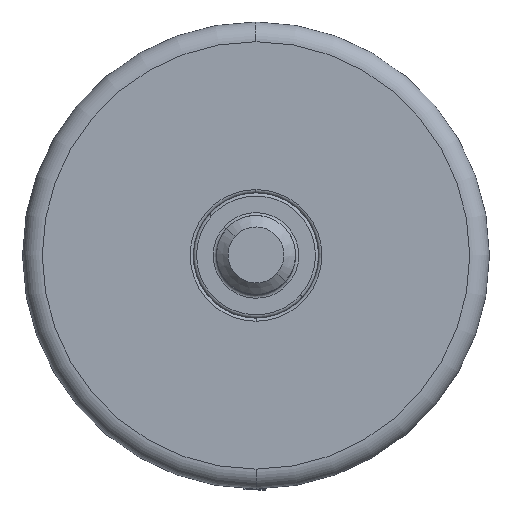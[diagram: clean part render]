
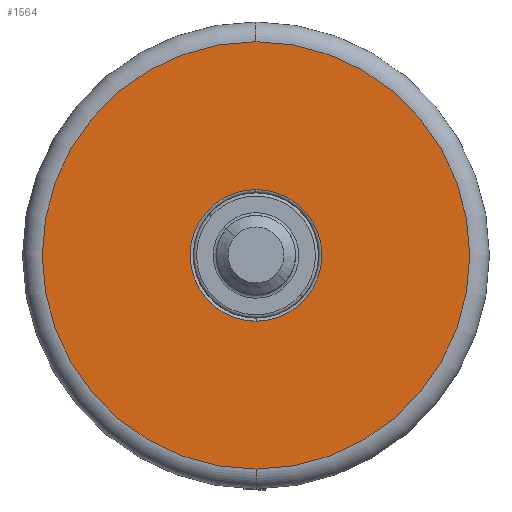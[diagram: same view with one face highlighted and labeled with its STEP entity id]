
A CAD part, top view. The second image highlights one B-rep face of the part: STEP entity #1564.
In plain terms, the highlighted planar face has unit normal (0, 0, 1) as drawn and (0, 0, -1) by its records, which use the part's own axes.
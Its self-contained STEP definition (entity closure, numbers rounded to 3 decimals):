
#294 = DIRECTION ( 'NONE',  ( 0., 0., 1. ) ) ;
#516 = CARTESIAN_POINT ( 'NONE',  ( 0., 0., -40. ) ) ;
#694 = VERTEX_POINT ( 'NONE', #818 ) ;
#818 = CARTESIAN_POINT ( 'NONE',  ( -10., 0., -40. ) ) ;
#887 = CIRCLE ( 'NONE', #2683, 32.465 ) ;
#915 = CARTESIAN_POINT ( 'NONE',  ( 32.465, 0., -40. ) ) ;
#934 = AXIS2_PLACEMENT_3D ( 'NONE', #11995, #8270, #10091 ) ;
#1564 = ADVANCED_FACE ( 'NONE', ( #9259, #2738 ), #3433, .F. ) ;
#2295 = CARTESIAN_POINT ( 'NONE',  ( 0., 0., -40. ) ) ;
#2466 = EDGE_CURVE ( 'NONE', #5445, #4516, #887, .T. ) ;
#2500 = EDGE_CURVE ( 'NONE', #4516, #5445, #11569, .T. ) ;
#2683 = AXIS2_PLACEMENT_3D ( 'NONE', #516, #4352, #9230 ) ;
#2738 = FACE_BOUND ( 'NONE', #7702, .T. ) ;
#2753 = CARTESIAN_POINT ( 'NONE',  ( -32.465, 0., -40. ) ) ;
#3433 = PLANE ( 'NONE',  #5107 ) ;
#3892 = AXIS2_PLACEMENT_3D ( 'NONE', #4089, #8198, #4151 ) ;
#4089 = CARTESIAN_POINT ( 'NONE',  ( 0., 0., -40. ) ) ;
#4151 = DIRECTION ( 'NONE',  ( 1., 0., 0. ) ) ;
#4251 = ORIENTED_EDGE ( 'NONE', *, *, #2466, .F. ) ;
#4352 = DIRECTION ( 'NONE',  ( 0., 0., 1. ) ) ;
#4473 = CIRCLE ( 'NONE', #10734, 10. ) ;
#4516 = VERTEX_POINT ( 'NONE', #915 ) ;
#4525 = ORIENTED_EDGE ( 'NONE', *, *, #6234, .T. ) ;
#4826 = VERTEX_POINT ( 'NONE', #9225 ) ;
#5107 = AXIS2_PLACEMENT_3D ( 'NONE', #12226, #7486, #5588 ) ;
#5445 = VERTEX_POINT ( 'NONE', #2753 ) ;
#5588 = DIRECTION ( 'NONE',  ( 1., 0., 0. ) ) ;
#6153 = DIRECTION ( 'NONE',  ( 1., 0., 0. ) ) ;
#6234 = EDGE_CURVE ( 'NONE', #694, #4826, #10202, .T. ) ;
#7307 = EDGE_CURVE ( 'NONE', #4826, #694, #4473, .T. ) ;
#7486 = DIRECTION ( 'NONE',  ( 0., 0., 1. ) ) ;
#7702 = EDGE_LOOP ( 'NONE', ( #8470, #4525 ) ) ;
#8198 = DIRECTION ( 'NONE',  ( 0., 0., 1. ) ) ;
#8270 = DIRECTION ( 'NONE',  ( 0., 0., 1. ) ) ;
#8470 = ORIENTED_EDGE ( 'NONE', *, *, #7307, .T. ) ;
#8617 = ORIENTED_EDGE ( 'NONE', *, *, #2500, .F. ) ;
#9225 = CARTESIAN_POINT ( 'NONE',  ( 10., 0., -40. ) ) ;
#9230 = DIRECTION ( 'NONE',  ( 1., 0., 0. ) ) ;
#9259 = FACE_OUTER_BOUND ( 'NONE', #10972, .T. ) ;
#10091 = DIRECTION ( 'NONE',  ( 1., 0., 0. ) ) ;
#10202 = CIRCLE ( 'NONE', #934, 10. ) ;
#10734 = AXIS2_PLACEMENT_3D ( 'NONE', #2295, #294, #6153 ) ;
#10972 = EDGE_LOOP ( 'NONE', ( #8617, #4251 ) ) ;
#11569 = CIRCLE ( 'NONE', #3892, 32.465 ) ;
#11995 = CARTESIAN_POINT ( 'NONE',  ( 0., 0., -40. ) ) ;
#12226 = CARTESIAN_POINT ( 'NONE',  ( 0., 32.465, -40. ) ) ;
